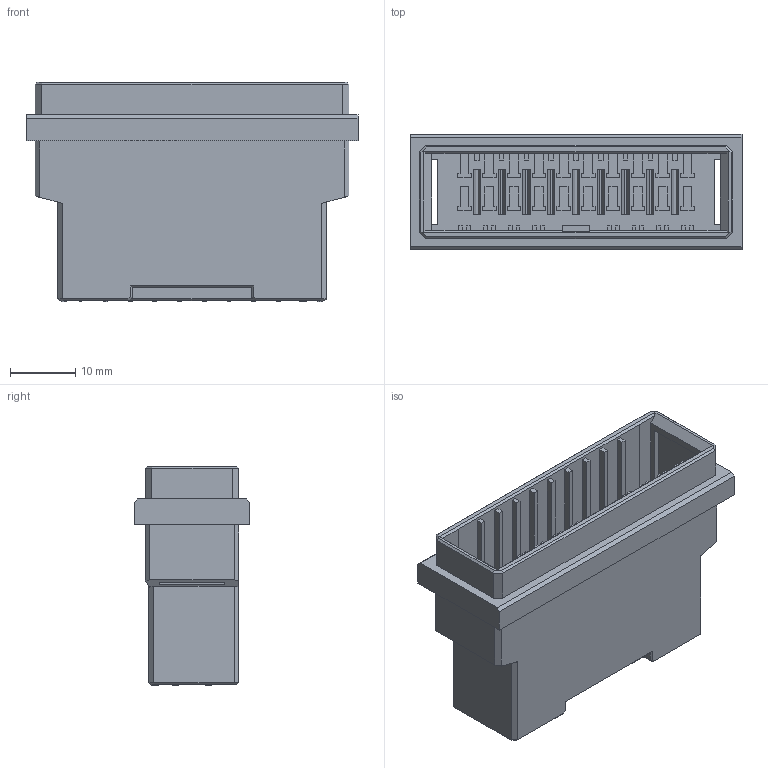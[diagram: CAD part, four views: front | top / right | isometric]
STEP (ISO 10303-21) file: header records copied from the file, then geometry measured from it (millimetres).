
FILE_DESCRIPTION (( 'STEP AP203' ), '1' );
FILE_NAME ('DK-3100D-20F.STEP', '2024-05-15T09:19:38', ( '' ), ( '' ), 'SwSTEP 2.0', 'SolidWorks 2018', '' );
FILE_SCHEMA (( 'CONFIG_CONTROL_DESIGN' ));
Length unit declared in the file: millimetre
Products named in the file (1): DK-3100D-20F
Bounding box: 51.07 x 17.78 x 33.7 mm (x, y, z)
Volume: 12810.7 mm3; surface area: 9080.9 mm2
Topology: 1 solids, 1 shells, 1764 faces, 4814 edges, 3162 vertices
Faces by surface type: plane 1334, bspline 426, cylinder 4
Entity records: 67231 total; most frequent: CARTESIAN_POINT 25699, ORIENTED_EDGE 9628, DIRECTION 6548, EDGE_CURVE 4814, LINE 3854, VECTOR 3854, VERTEX_POINT 3162, EDGE_LOOP 1878
